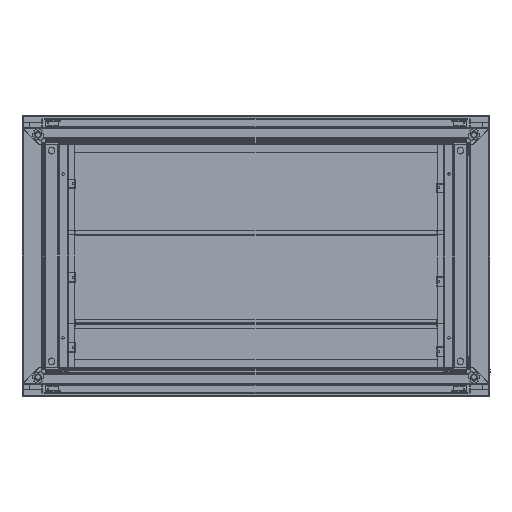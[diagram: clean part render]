
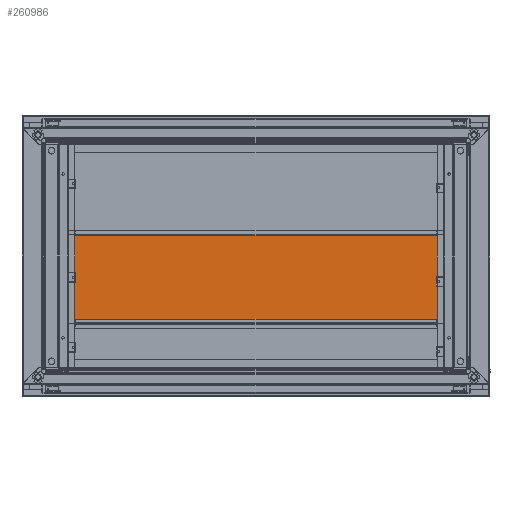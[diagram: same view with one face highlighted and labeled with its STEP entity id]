
A CAD part, front view. The second image highlights one B-rep face of the part: STEP entity #260986.
In plain terms, the highlighted planar face has unit normal (0, -1, 0) as drawn and (0, 1, 0) by its records, which use the part's own axes.
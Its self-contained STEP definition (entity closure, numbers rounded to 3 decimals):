
#260621=CARTESIAN_POINT(' ',(400.,0.,-99.));
#260626=DIRECTION(' ',(-1.,0.,0.));
#260631=VECTOR(' ',#260626,1.);
#260636=LINE('',#260621,#260631);
#260641=CARTESIAN_POINT(' ',(400.,0.,-99.));
#260642=VERTEX_POINT(' ',#260641);
#260646=CARTESIAN_POINT(' ',(-400.,0.,-99.));
#260647=VERTEX_POINT(' ',#260646);
#260651=EDGE_CURVE(' ',#260642,#260647,#260636,.T.);
#260776=DIRECTION(' ',(0.,1.,0.));
#260781=CARTESIAN_POINT(' ',(-400.,0.,-99.));
#260786=DIRECTION(' ',(0.,-0.,1.));
#260791=AXIS2_PLACEMENT_3D(' ',#260781,#260776,#260786);
#260796=PLANE('NONE',#260791);
#260801=CARTESIAN_POINT(' ',(385.,0.,99.));
#260806=DIRECTION(' ',(1.,0.,0.));
#260811=VECTOR(' ',#260806,1.);
#260816=LINE('',#260801,#260811);
#260821=CARTESIAN_POINT(' ',(385.,0.,99.));
#260822=VERTEX_POINT(' ',#260821);
#260826=CARTESIAN_POINT(' ',(400.,0.,99.));
#260827=VERTEX_POINT(' ',#260826);
#260831=EDGE_CURVE(' ',#260822,#260827,#260816,.T.);
#260836=ORIENTED_EDGE(' ',*,*,#260831,.T.);
#260841=CARTESIAN_POINT(' ',(400.,0.,99.));
#260846=DIRECTION(' ',(0.,0.,-1.));
#260851=VECTOR(' ',#260846,1.);
#260856=LINE('',#260841,#260851);
#260861=EDGE_CURVE(' ',#260827,#260642,#260856,.T.);
#260866=ORIENTED_EDGE(' ',*,*,#260861,.T.);
#260871=ORIENTED_EDGE(' ',*,*,#260651,.T.);
#260876=CARTESIAN_POINT(' ',(-400.,0.,-99.));
#260881=DIRECTION(' ',(0.,0.,1.));
#260886=VECTOR(' ',#260881,1.);
#260891=LINE('',#260876,#260886);
#260896=CARTESIAN_POINT(' ',(-400.,0.,99.));
#260897=VERTEX_POINT(' ',#260896);
#260901=EDGE_CURVE(' ',#260647,#260897,#260891,.T.);
#260906=ORIENTED_EDGE(' ',*,*,#260901,.T.);
#260911=CARTESIAN_POINT(' ',(-400.,0.,99.));
#260916=DIRECTION(' ',(1.,0.,0.));
#260921=VECTOR(' ',#260916,1.);
#260926=LINE('',#260911,#260921);
#260931=CARTESIAN_POINT(' ',(-385.,0.,99.));
#260932=VERTEX_POINT(' ',#260931);
#260936=EDGE_CURVE(' ',#260897,#260932,#260926,.T.);
#260941=ORIENTED_EDGE(' ',*,*,#260936,.T.);
#260946=CARTESIAN_POINT(' ',(-385.,0.,99.));
#260951=DIRECTION(' ',(1.,0.,0.));
#260956=VECTOR(' ',#260951,1.);
#260961=LINE('',#260946,#260956);
#260966=EDGE_CURVE(' ',#260932,#260822,#260961,.T.);
#260971=ORIENTED_EDGE(' ',*,*,#260966,.T.);
#260976=EDGE_LOOP(' ',(#260836,#260866,#260871,#260906,#260941,#260971));
#260981=FACE_OUTER_BOUND(' ',#260976,.T.);
#260986=ADVANCED_FACE('NONE',(#260981),#260796,.T.);
